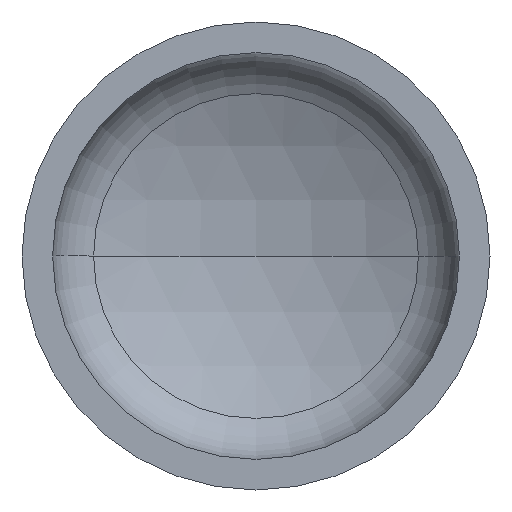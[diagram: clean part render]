
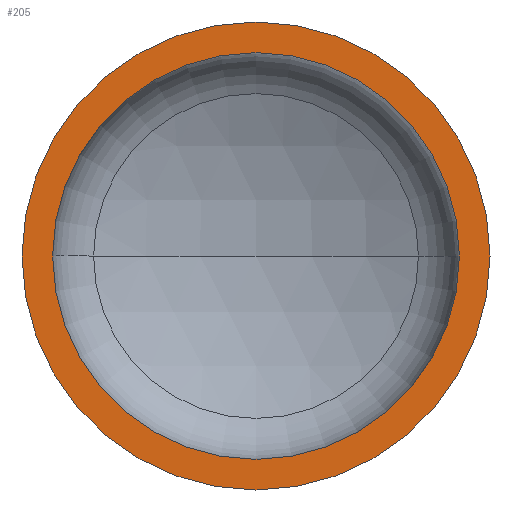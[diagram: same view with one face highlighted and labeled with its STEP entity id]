
A CAD part, front view. The second image highlights one B-rep face of the part: STEP entity #205.
In plain terms, the highlighted planar face has unit normal (0, -1, 0).
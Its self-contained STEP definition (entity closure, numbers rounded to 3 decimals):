
#4 = EDGE_LOOP ( 'NONE', ( #121, #85 ) ) ;
#7 = CARTESIAN_POINT ( 'NONE',  ( -550., 0., 0. ) ) ;
#8 = ORIENTED_EDGE ( 'NONE', *, *, #383, .F. ) ;
#23 = AXIS2_PLACEMENT_3D ( 'NONE', #207, #277, #240 ) ;
#54 = AXIS2_PLACEMENT_3D ( 'NONE', #373, #369, #374 ) ;
#55 = AXIS2_PLACEMENT_3D ( 'NONE', #345, #343, #350 ) ;
#56 = ORIENTED_EDGE ( 'NONE', *, *, #81, .F. ) ;
#63 = EDGE_LOOP ( 'NONE', ( #56, #8 ) ) ;
#77 = VERTEX_POINT ( 'NONE', #241 ) ;
#79 = EDGE_CURVE ( 'NONE', #104, #77, #146, .T. ) ;
#81 = EDGE_CURVE ( 'NONE', #94, #152, #110, .T. ) ;
#85 = ORIENTED_EDGE ( 'NONE', *, *, #79, .T. ) ;
#94 = VERTEX_POINT ( 'NONE', #303 ) ;
#104 = VERTEX_POINT ( 'NONE', #7 ) ;
#110 = CIRCLE ( 'NONE', #54, 478. ) ;
#119 = CIRCLE ( 'NONE', #367, 478. ) ;
#121 = ORIENTED_EDGE ( 'NONE', *, *, #385, .T. ) ;
#146 = CIRCLE ( 'NONE', #55, 550. ) ;
#152 = VERTEX_POINT ( 'NONE', #259 ) ;
#195 = CIRCLE ( 'NONE', #399, 550. ) ;
#205 = ADVANCED_FACE ( 'NONE', ( #299, #352 ), #264, .F. ) ;
#207 = CARTESIAN_POINT ( 'NONE',  ( -550., 0., 0. ) ) ;
#224 = DIRECTION ( 'NONE',  ( 1., 0., 0. ) ) ;
#240 = DIRECTION ( 'NONE',  ( -1., 0., 0. ) ) ;
#241 = CARTESIAN_POINT ( 'NONE',  ( 550., 0., 0. ) ) ;
#244 = CARTESIAN_POINT ( 'NONE',  ( 0., 0., 0. ) ) ;
#259 = CARTESIAN_POINT ( 'NONE',  ( -478., 0., 0. ) ) ;
#264 = PLANE ( 'NONE',  #23 ) ;
#267 = DIRECTION ( 'NONE',  ( 1., 0., 0. ) ) ;
#269 = CARTESIAN_POINT ( 'NONE',  ( 0., 0., 0. ) ) ;
#277 = DIRECTION ( 'NONE',  ( 0., 1., 0. ) ) ;
#299 = FACE_BOUND ( 'NONE', #63, .T. ) ;
#303 = CARTESIAN_POINT ( 'NONE',  ( 478., 0., 0. ) ) ;
#343 = DIRECTION ( 'NONE',  ( 0., -1., 0. ) ) ;
#345 = CARTESIAN_POINT ( 'NONE',  ( 0., 0., 0. ) ) ;
#350 = DIRECTION ( 'NONE',  ( 1., 0., 0. ) ) ;
#352 = FACE_OUTER_BOUND ( 'NONE', #4, .T. ) ;
#358 = DIRECTION ( 'NONE',  ( 0., -1., 0. ) ) ;
#367 = AXIS2_PLACEMENT_3D ( 'NONE', #269, #358, #224 ) ;
#369 = DIRECTION ( 'NONE',  ( 0., -1., 0. ) ) ;
#373 = CARTESIAN_POINT ( 'NONE',  ( 0., 0., 0. ) ) ;
#374 = DIRECTION ( 'NONE',  ( 1., 0., 0. ) ) ;
#383 = EDGE_CURVE ( 'NONE', #152, #94, #119, .T. ) ;
#385 = EDGE_CURVE ( 'NONE', #77, #104, #195, .T. ) ;
#399 = AXIS2_PLACEMENT_3D ( 'NONE', #244, #402, #267 ) ;
#402 = DIRECTION ( 'NONE',  ( 0., -1., 0. ) ) ;
